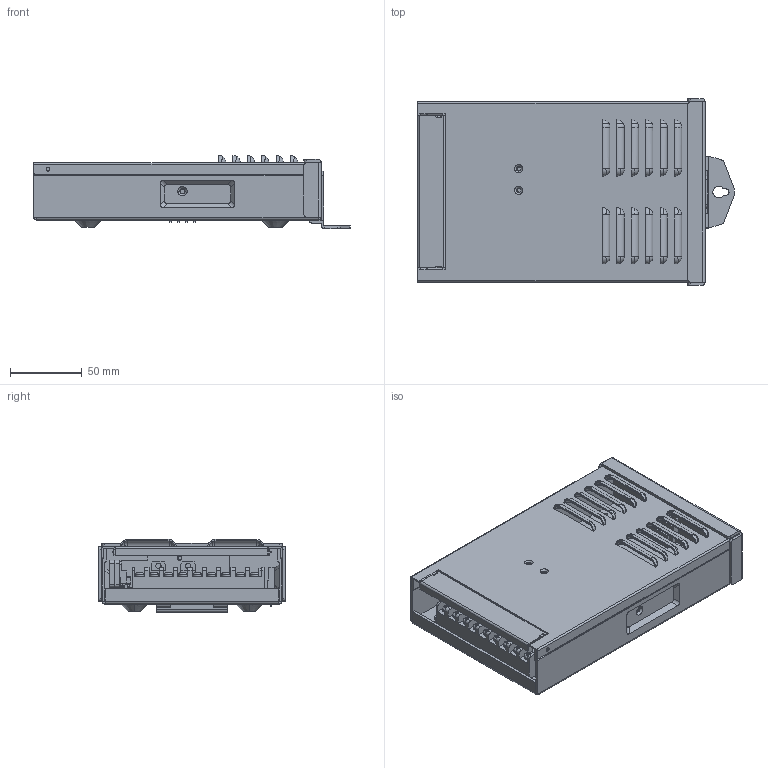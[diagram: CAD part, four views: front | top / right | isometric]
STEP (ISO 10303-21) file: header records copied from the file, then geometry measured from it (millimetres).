
FILE_DESCRIPTION((''),'2;1');
FILE_NAME('ERP-350_131028__ASM','2019-06-19T15:10:36',('shalinice'),(''),'CREO PARAMETRIC BY PTC INC, 2016390','CREO PARAMETRIC BY PTC INC, 2016390','');
FILE_SCHEMA(('AUTOMOTIVE_DESIGN { 1 0 10303 214 1 1 1 1 }'));
Products named in the file (33): PCB; FAN-ALL_ASM; ___Y_ASM; TN_1_1_1; A1_1_ASM; VR_1; SM; MOS15_5X10_1_1_1_1_1_1_1_1_1_2; CU2; _T_W__1_1; UU_3; _T_W__1_1_1_1; A2_ASM; A1_ASM; HS-GZ109; PIN_1; PIN_2; HS-GZ119; LS_1; LS; HS_ASM; ERP-350A-T; LSZ_1; LSZ_3; LSZ_2; LSZ_4; LSZ; P2; ERP-350A-D_ASM; ERP-350A-G; CASE_ASM; 350A-R; ERP-350_131028__ASM
Assembly tree (38 placements, depth 5):
  ERP-350_131028__ASM
    PCB
    A1_ASM
      A2_ASM
        A1_1_ASM
          FAN-ALL_ASM
          ___Y_ASM
          TN_1_1_1
        VR_1
        SM
        MOS15_5X10_1_1_1_1_1_1_1_1_1_2  x6
        CU2
        _T_W__1_1  x2
        UU_3
        _T_W__1_1_1_1
    HS_ASM
      HS-GZ109
      PIN_1
      PIN_2
      HS-GZ119
      LS_1
      LS
    CASE_ASM
      ERP-350A-T
      ERP-350A-D_ASM
        LSZ_1
        LSZ_3
        LSZ_2
        LSZ_4
        LSZ
        P2
      ERP-350A-G
    350A-R
Bounding box: 220.36 x 130 x 50.8 mm (x, y, z)
Volume: 209805.5 mm3; surface area: 242955.6 mm2
Topology: 30 solids, 30 shells, 1629 faces, 4257 edges, 2612 vertices
Faces by surface type: plane 796, cylinder 485, bspline 146, sphere 112, cone 62, torus 28
Entity records: 77552 total; most frequent: CARTESIAN_POINT 29433, ORIENTED_EDGE 7490, DIRECTION 7384, EDGE_CURVE 3745, PRESENTATION_STYLE_ASSIGNMENT 3605, STYLED_ITEM 3604, CURVE_STYLE 3581, AXIS2_PLACEMENT_3D 2650
